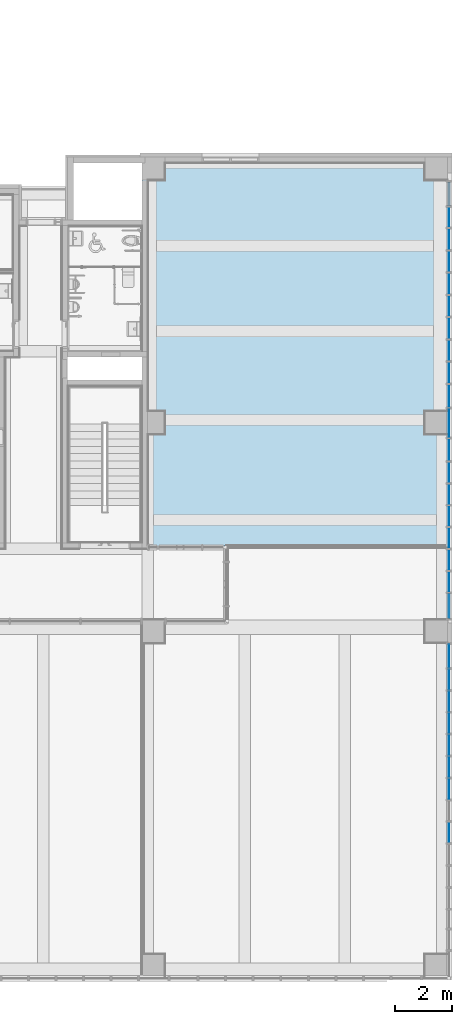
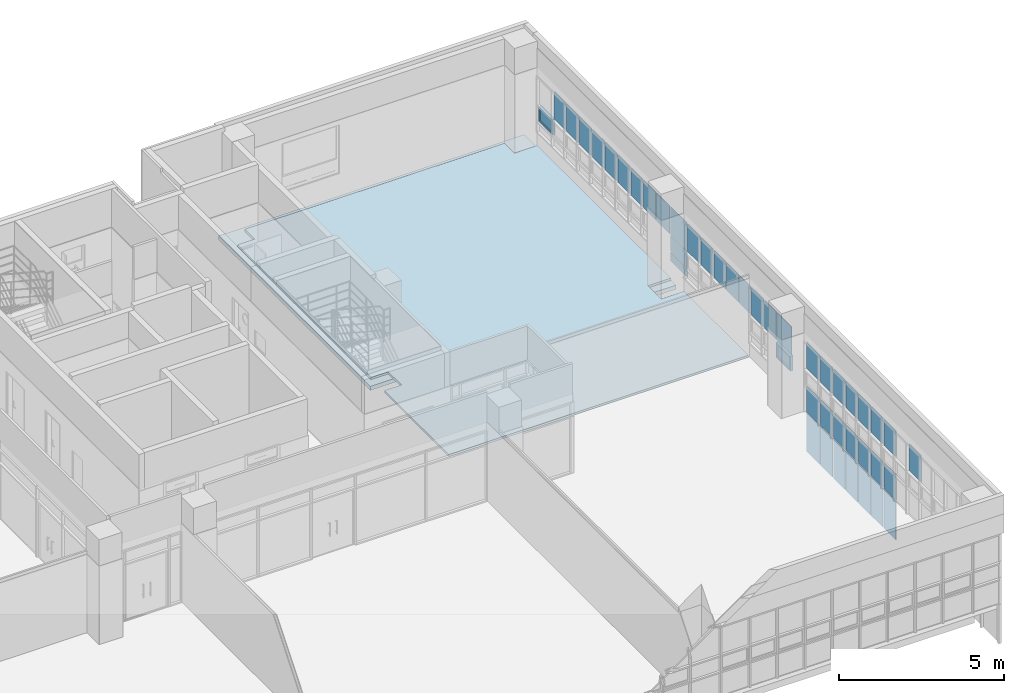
# One storey, part 32 of 81: 44 plates, 2 slabs, 2 elements without a shape of their own.
"""IFC2X3 building model written with IfcOpenShell, lengths in millimetres."""

from ifc_helpers import new_model, entity, si_unit, converted_unit, derived_unit, direction, frame, frame_2d, origin, origin_2d_with_axis, place, context, subcontext, project, spatial, polyline, rectangle, outline, extrude, source, transform, mapped, material, material_list, layer, layer_set, layer_usage, type_object, type_shapes, element, aggregate, save


model = new_model("IFC2X3")

# Units and contexts
model_context = context("Model", 3, precision=0.01, world=origin(), true_north=direction((6.123031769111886e-17, 1.0)))
body_context = subcontext(model_context, "Body", "Model", "MODEL_VIEW")
ifc_project = project(units=[si_unit("LENGTHUNIT", "METRE", prefix="MILLI"), si_unit("AREAUNIT", "SQUARE_METRE"), si_unit("VOLUMEUNIT", "CUBIC_METRE"), converted_unit("PLANEANGLEUNIT", "DEGREE", entity("IfcRatioMeasure", 0.017453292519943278), si_unit("PLANEANGLEUNIT", "RADIAN"), dimensions=[0, 0, 0, 0, 0, 0, 0]), si_unit("MASSUNIT", "GRAM", prefix="KILO"), derived_unit("MASSDENSITYUNIT", [(si_unit("MASSUNIT", "GRAM", prefix="KILO"), 1), (si_unit("LENGTHUNIT", "METRE"), -3)]), derived_unit("MOMENTOFINERTIAUNIT", [(si_unit("LENGTHUNIT", "METRE"), 4)]), si_unit("TIMEUNIT", "SECOND"), si_unit("FREQUENCYUNIT", "HERTZ"), si_unit("THERMODYNAMICTEMPERATUREUNIT", "DEGREE_CELSIUS"), derived_unit("THERMALTRANSMITTANCEUNIT", [(si_unit("MASSUNIT", "GRAM", prefix="KILO"), 1), (si_unit("THERMODYNAMICTEMPERATUREUNIT", "KELVIN"), -1), (si_unit("TIMEUNIT", "SECOND"), -3)]), derived_unit("VOLUMETRICFLOWRATEUNIT", [(si_unit("LENGTHUNIT", "METRE"), 3), (si_unit("TIMEUNIT", "SECOND"), -1)]), derived_unit("MASSFLOWRATEUNIT", [(si_unit("MASSUNIT", "GRAM", prefix="KILO"), 1), (si_unit("TIMEUNIT", "SECOND"), -1)]), derived_unit("ROTATIONALFREQUENCYUNIT", [(si_unit("TIMEUNIT", "SECOND"), -1)]), si_unit("ELECTRICCURRENTUNIT", "AMPERE"), si_unit("ELECTRICVOLTAGEUNIT", "VOLT"), si_unit("POWERUNIT", "WATT"), si_unit("FORCEUNIT", "NEWTON", prefix="KILO"), si_unit("ILLUMINANCEUNIT", "LUX"), si_unit("LUMINOUSFLUXUNIT", "LUMEN"), si_unit("LUMINOUSINTENSITYUNIT", "CANDELA"), derived_unit("USERDEFINED", [(si_unit("MASSUNIT", "GRAM", prefix="KILO"), -1), (si_unit("LENGTHUNIT", "METRE"), -2), (si_unit("TIMEUNIT", "SECOND"), 3), (si_unit("LUMINOUSFLUXUNIT", "LUMEN"), 1)]), derived_unit("SOUNDPOWERUNIT", [(si_unit("MASSUNIT", "GRAM", prefix="KILO"), 1), (si_unit("LENGTHUNIT", "METRE"), 2), (si_unit("TIMEUNIT", "SECOND"), -3)]), derived_unit("SOUNDPRESSUREUNIT", [(si_unit("MASSUNIT", "GRAM", prefix="KILO"), 1), (si_unit("LENGTHUNIT", "METRE"), -1), (si_unit("TIMEUNIT", "SECOND"), -2)]), derived_unit("LINEARVELOCITYUNIT", [(si_unit("LENGTHUNIT", "METRE"), 1), (si_unit("TIMEUNIT", "SECOND"), -1)]), si_unit("PRESSUREUNIT", "PASCAL"), derived_unit("USERDEFINED", [(si_unit("LENGTHUNIT", "METRE"), -2), (si_unit("MASSUNIT", "GRAM", prefix="KILO"), 1), (si_unit("TIMEUNIT", "SECOND"), -2)]), derived_unit("LINEARFORCEUNIT", [(si_unit("MASSUNIT", "GRAM", prefix="KILO"), 1), (si_unit("LENGTHUNIT", "METRE"), 1), (si_unit("TIMEUNIT", "SECOND"), -2), (si_unit("LENGTHUNIT", "METRE"), -1)]), derived_unit("PLANARFORCEUNIT", [(si_unit("MASSUNIT", "GRAM", prefix="KILO"), 1), (si_unit("LENGTHUNIT", "METRE"), 1), (si_unit("TIMEUNIT", "SECOND"), -2), (si_unit("LENGTHUNIT", "METRE"), -2)])], contexts=[model_context])

# Site, building, storey
site_placement = place(None, frame((-14167.972527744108, -657.2125860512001, 0.0)))
site = spatial("IfcSite", under=ifc_project, at=site_placement, Name="Default", CompositionType="ELEMENT")
building_placement = place(site_placement, origin())
building = spatial("IfcBuilding", under=site, at=building_placement, Name="Sample Building", CompositionType="ELEMENT")
storey_placement = place(building_placement, frame((0.0, 0.0, 13400.0)))
storey = spatial("IfcBuildingStorey", under=building, at=storey_placement, Name="지상 4층", CompositionType="ELEMENT", Elevation=13400.00000000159)

# Slab
ifc_material_1 = material(Name="KBIMS-콘크리트")
ifc_layer_1 = layer(ifc_material_1, 150.0)
ifc_layer_set_1 = layer_set([ifc_layer_1], Name="바닥:SL111-철근콘크리트구조 바닥 150mm_S1")
ifc_layer_usage_1 = layer_usage(ifc_layer_set_1, "AXIS3", "POSITIVE", 0.0)
slab_type_1 = type_object("IfcSlabType", Name="바닥:SL111-철근콘크리트구조 바닥 150mm_S1", PredefinedType="FLOOR", material=ifc_layer_set_1)
slab_1_placement = place(storey_placement, origin())
element("IfcSlab", 1, at=slab_1_placement, inside=storey, type_object=slab_type_1, material=ifc_layer_usage_1, Name="바닥:SL111-철근콘크리트구조 바닥 150mm_S1", ObjectType="바닥:SL111-철근콘크리트구조 바닥 150mm_S1", PredefinedType="FLOOR", context=body_context, shape_type="SweptSolid", body=[
    extrude(rectangle(XDim=9200.000037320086, YDim=10699.999920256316, at=frame_2d((4.547473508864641e-12, -8.640199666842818e-12), x_axis=(1.0, 0.0))), frame((46117.95506529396, 24657.21227648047, 0.0), z_axis=(0.0, 0.0, -1.0), x_axis=(0.0, 1.0, 0.0)), (0.0, 0.0, 1.0), 150.00000000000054),
])

# Curtain wall, plate
curtain_wall_type = type_object("IfcCurtainWallType", Name="커튼월:CW112-스테인리스 스틸 커튼월", PredefinedType="NOTDEFINED")
curtain_wall_1_placement = place(storey_placement, frame((0.0, 0.0, -13400.0)))
curtain_wall_1 = element("IfcCurtainWall", 2, at=curtain_wall_1_placement, inside=storey, type_object=curtain_wall_type, Name="커튼월:CW112-스테인리스 스틸 커튼월", ObjectType="커튼월:CW112-스테인리스 스틸 커튼월")
ifc_material_2 = material(Name="KBIMS-로이유리(코팅)")
plate_type_1 = type_object("IfcPlateType", Name="CW300-THK24.Low-e coating glass:CW300-THK24.Low-e coating glass", PredefinedType="CURTAIN_PANEL", material=ifc_material_2)
shared_shape_1 = source(origin(), body_context, "Body", "SweptSolid", [
    extrude(rectangle(XDim=24.000000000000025, YDim=1000.0000000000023, at=origin_2d_with_axis()), frame((0.0, 0.0, 0.0), z_axis=(0.0, 0.0, 1.0), x_axis=(0.0, 1.0, 0.0)), (0.0, 0.0, 1.0), 549.9999999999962),
])
type_shapes(plate_type_1, [shared_shape_1])
plate_1_placement = place(curtain_wall_1_placement, frame((51517.963828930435, 19956.71229514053, 14425.0), z_axis=(0.0, 0.0, 1.0), x_axis=(0.0, -1.0, 0.0)))
plate_1 = element("IfcPlate", 3, at=plate_1_placement, type_object=plate_type_1, material=ifc_material_2, Name="CW300-THK24.Low-e coating glass:CW300-THK24.Low-e coating glass", ObjectType="CW300-THK24.Low-e coating glass:CW300-THK24.Low-e coating glass", context=body_context, shape_type="MappedRepresentation", body=[
    mapped(shared_shape_1, transform((0.0, 0.0, 0.0), scale=1.0)),
])

# Curtain wall, plates
curtain_wall_2_placement = place(storey_placement, frame((0.0, 0.0, -13400.0)))
curtain_wall_2 = element("IfcCurtainWall", 4, at=curtain_wall_2_placement, inside=storey, type_object=curtain_wall_type, Name="커튼월:CW112-스테인리스 스틸 커튼월", ObjectType="커튼월:CW112-스테인리스 스틸 커튼월")
plate_type_2 = type_object("IfcPlateType", Name="CW300-THK24.Low-e coating glass:CW300-THK24.Low-e coating glass", PredefinedType="CURTAIN_PANEL", material=ifc_material_2)
shared_shape_2 = source(origin(), body_context, "Body", "SweptSolid", [
    extrude(rectangle(XDim=24.000000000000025, YDim=822.3945880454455, at=origin_2d_with_axis()), frame((0.0, 0.0, 0.0), z_axis=(0.0, 0.0, 1.0), x_axis=(0.0, 1.0, 0.0)), (0.0, 0.0, 1.0), 1424.9999999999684),
])
type_shapes(plate_type_2, [shared_shape_2])
plate_2_placement = place(curtain_wall_2_placement, frame((51517.96382893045, 11795.980330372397, 12000.0), z_axis=(0.0, 0.0, 1.0), x_axis=(0.0, -1.0, 0.0)))
plate_2 = element("IfcPlate", 5, at=plate_2_placement, type_object=plate_type_2, material=ifc_material_2, Name="CW300-THK24.Low-e coating glass:CW300-THK24.Low-e coating glass", ObjectType="CW300-THK24.Low-e coating glass:CW300-THK24.Low-e coating glass", context=body_context, shape_type="MappedRepresentation", body=[
    mapped(shared_shape_2, transform((0.0, 0.0, 0.0), scale=1.0)),
])
plate_type_3 = type_object("IfcPlateType", Name="CW300-THK24.Low-e coating glass:CW300-THK24.Low-e coating glass", PredefinedType="CURTAIN_PANEL", material=ifc_material_2)
shared_shape_3 = source(origin(), body_context, "Body", "SweptSolid", [
    extrude(rectangle(XDim=24.000000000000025, YDim=716.0000000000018, at=origin_2d_with_axis()), frame((0.0, 0.0, 0.0), z_axis=(0.0, 0.0, 1.0), x_axis=(0.0, 1.0, 0.0)), (0.0, 0.0, 1.0), 1424.9999999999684),
])
type_shapes(plate_type_3, [shared_shape_3])
plate_3_placement = place(curtain_wall_2_placement, frame((51517.96382893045, 10976.783036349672, 12000.0), z_axis=(0.0, 0.0, 1.0), x_axis=(0.0, -1.0, 0.0)))
plate_3 = element("IfcPlate", 6, at=plate_3_placement, type_object=plate_type_3, material=ifc_material_2, Name="CW300-THK24.Low-e coating glass:CW300-THK24.Low-e coating glass", ObjectType="CW300-THK24.Low-e coating glass:CW300-THK24.Low-e coating glass", context=body_context, shape_type="MappedRepresentation", body=[
    mapped(shared_shape_3, transform((0.0, 0.0, 0.0), scale=1.0)),
])
plate_4_placement = place(curtain_wall_2_placement, frame((51517.96382893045, 10210.783036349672, 12000.0), z_axis=(0.0, 0.0, 1.0), x_axis=(0.0, -1.0, 0.0)))
plate_4 = element("IfcPlate", 7, at=plate_4_placement, type_object=plate_type_3, material=ifc_material_2, Name="CW300-THK24.Low-e coating glass:CW300-THK24.Low-e coating glass", ObjectType="CW300-THK24.Low-e coating glass:CW300-THK24.Low-e coating glass", context=body_context, shape_type="MappedRepresentation", body=[
    mapped(shared_shape_3, transform((0.0, 0.0, 0.0), scale=1.0)),
])
plate_5_placement = place(curtain_wall_2_placement, frame((51517.96382893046, 9444.783036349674, 12000.0), z_axis=(0.0, 0.0, 1.0), x_axis=(0.0, -1.0, 0.0)))
plate_5 = element("IfcPlate", 8, at=plate_5_placement, type_object=plate_type_3, material=ifc_material_2, Name="CW300-THK24.Low-e coating glass:CW300-THK24.Low-e coating glass", ObjectType="CW300-THK24.Low-e coating glass:CW300-THK24.Low-e coating glass", context=body_context, shape_type="MappedRepresentation", body=[
    mapped(shared_shape_3, transform((0.0, 0.0, 0.0), scale=1.0)),
])
plate_6_placement = place(curtain_wall_2_placement, frame((51517.96382893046, 8678.783036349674, 12000.0), z_axis=(0.0, 0.0, 1.0), x_axis=(0.0, -1.0, 0.0)))
plate_6 = element("IfcPlate", 9, at=plate_6_placement, type_object=plate_type_3, material=ifc_material_2, Name="CW300-THK24.Low-e coating glass:CW300-THK24.Low-e coating glass", ObjectType="CW300-THK24.Low-e coating glass:CW300-THK24.Low-e coating glass", context=body_context, shape_type="MappedRepresentation", body=[
    mapped(shared_shape_3, transform((0.0, 0.0, 0.0), scale=1.0)),
])
plate_7_placement = place(curtain_wall_2_placement, frame((51517.96382893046, 7912.783036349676, 12000.0), z_axis=(0.0, 0.0, 1.0), x_axis=(0.0, -1.0, 0.0)))
plate_7 = element("IfcPlate", 10, at=plate_7_placement, type_object=plate_type_3, material=ifc_material_2, Name="CW300-THK24.Low-e coating glass:CW300-THK24.Low-e coating glass", ObjectType="CW300-THK24.Low-e coating glass:CW300-THK24.Low-e coating glass", context=body_context, shape_type="MappedRepresentation", body=[
    mapped(shared_shape_3, transform((0.0, 0.0, 0.0), scale=1.0)),
])
plate_8_placement = place(curtain_wall_2_placement, frame((51517.96382893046, 7146.783036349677, 12000.0), z_axis=(0.0, 0.0, 1.0), x_axis=(0.0, -1.0, 0.0)))
plate_8 = element("IfcPlate", 11, at=plate_8_placement, type_object=plate_type_3, material=ifc_material_2, Name="CW300-THK24.Low-e coating glass:CW300-THK24.Low-e coating glass", ObjectType="CW300-THK24.Low-e coating glass:CW300-THK24.Low-e coating glass", context=body_context, shape_type="MappedRepresentation", body=[
    mapped(shared_shape_3, transform((0.0, 0.0, 0.0), scale=1.0)),
])
plate_type_4 = type_object("IfcPlateType", Name="CW300-THK24.Low-e coating glass:CW300-THK24.Low-e coating glass", PredefinedType="CURTAIN_PANEL", material=ifc_material_2)
shared_shape_4 = source(origin(), body_context, "Body", "SweptSolid", [
    extrude(rectangle(XDim=24.000000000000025, YDim=822.3945880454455, at=origin_2d_with_axis()), frame((0.0, 0.0, 0.0), z_axis=(0.0, 0.0, 1.0), x_axis=(0.0, 1.0, 0.0)), (0.0, 0.0, 1.0), 949.9999999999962),
])
type_shapes(plate_type_4, [shared_shape_4])
plate_9_placement = place(curtain_wall_2_placement, frame((51517.96382893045, 11795.980330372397, 13475.0), z_axis=(0.0, 0.0, 1.0), x_axis=(0.0, -1.0, 0.0)))
plate_9 = element("IfcPlate", 12, at=plate_9_placement, type_object=plate_type_4, material=ifc_material_2, Name="CW300-THK24.Low-e coating glass:CW300-THK24.Low-e coating glass", ObjectType="CW300-THK24.Low-e coating glass:CW300-THK24.Low-e coating glass", context=body_context, shape_type="MappedRepresentation", body=[
    mapped(shared_shape_4, transform((0.0, 0.0, 0.0), scale=1.0)),
])
plate_type_5 = type_object("IfcPlateType", Name="CW300-THK24.Low-e coating glass:CW300-THK24.Low-e coating glass", PredefinedType="CURTAIN_PANEL", material=ifc_material_2)
shared_shape_5 = source(origin(), body_context, "Body", "SweptSolid", [
    extrude(rectangle(XDim=24.000000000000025, YDim=716.0000000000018, at=origin_2d_with_axis()), frame((0.0, 0.0, 0.0), z_axis=(0.0, 0.0, 1.0), x_axis=(0.0, 1.0, 0.0)), (0.0, 0.0, 1.0), 949.9999999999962),
])
type_shapes(plate_type_5, [shared_shape_5])
plate_10_placement = place(curtain_wall_2_placement, frame((51517.96382893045, 10976.783036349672, 13475.0), z_axis=(0.0, 0.0, 1.0), x_axis=(0.0, -1.0, 0.0)))
plate_10 = element("IfcPlate", 13, at=plate_10_placement, type_object=plate_type_5, material=ifc_material_2, Name="CW300-THK24.Low-e coating glass:CW300-THK24.Low-e coating glass", ObjectType="CW300-THK24.Low-e coating glass:CW300-THK24.Low-e coating glass", context=body_context, shape_type="MappedRepresentation", body=[
    mapped(shared_shape_5, transform((0.0, 0.0, 0.0), scale=1.0)),
])
plate_11_placement = place(curtain_wall_2_placement, frame((51517.96382893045, 10210.783036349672, 13475.0), z_axis=(0.0, 0.0, 1.0), x_axis=(0.0, -1.0, 0.0)))
plate_11 = element("IfcPlate", 14, at=plate_11_placement, type_object=plate_type_5, material=ifc_material_2, Name="CW300-THK24.Low-e coating glass:CW300-THK24.Low-e coating glass", ObjectType="CW300-THK24.Low-e coating glass:CW300-THK24.Low-e coating glass", context=body_context, shape_type="MappedRepresentation", body=[
    mapped(shared_shape_5, transform((0.0, 0.0, 0.0), scale=1.0)),
])
plate_12_placement = place(curtain_wall_2_placement, frame((51517.96382893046, 9444.783036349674, 13475.0), z_axis=(0.0, 0.0, 1.0), x_axis=(0.0, -1.0, 0.0)))
plate_12 = element("IfcPlate", 15, at=plate_12_placement, type_object=plate_type_5, material=ifc_material_2, Name="CW300-THK24.Low-e coating glass:CW300-THK24.Low-e coating glass", ObjectType="CW300-THK24.Low-e coating glass:CW300-THK24.Low-e coating glass", context=body_context, shape_type="MappedRepresentation", body=[
    mapped(shared_shape_5, transform((0.0, 0.0, 0.0), scale=1.0)),
])
plate_13_placement = place(curtain_wall_2_placement, frame((51517.96382893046, 8678.783036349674, 13475.0), z_axis=(0.0, 0.0, 1.0), x_axis=(0.0, -1.0, 0.0)))
plate_13 = element("IfcPlate", 16, at=plate_13_placement, type_object=plate_type_5, material=ifc_material_2, Name="CW300-THK24.Low-e coating glass:CW300-THK24.Low-e coating glass", ObjectType="CW300-THK24.Low-e coating glass:CW300-THK24.Low-e coating glass", context=body_context, shape_type="MappedRepresentation", body=[
    mapped(shared_shape_5, transform((0.0, 0.0, 0.0), scale=1.0)),
])
plate_14_placement = place(curtain_wall_2_placement, frame((51517.96382893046, 7912.783036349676, 13475.0), z_axis=(0.0, 0.0, 1.0), x_axis=(0.0, -1.0, 0.0)))
plate_14 = element("IfcPlate", 17, at=plate_14_placement, type_object=plate_type_5, material=ifc_material_2, Name="CW300-THK24.Low-e coating glass:CW300-THK24.Low-e coating glass", ObjectType="CW300-THK24.Low-e coating glass:CW300-THK24.Low-e coating glass", context=body_context, shape_type="MappedRepresentation", body=[
    mapped(shared_shape_5, transform((0.0, 0.0, 0.0), scale=1.0)),
])
plate_15_placement = place(curtain_wall_2_placement, frame((51517.96382893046, 7146.783036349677, 13475.0), z_axis=(0.0, 0.0, 1.0), x_axis=(0.0, -1.0, 0.0)))
plate_15 = element("IfcPlate", 18, at=plate_15_placement, type_object=plate_type_5, material=ifc_material_2, Name="CW300-THK24.Low-e coating glass:CW300-THK24.Low-e coating glass", ObjectType="CW300-THK24.Low-e coating glass:CW300-THK24.Low-e coating glass", context=body_context, shape_type="MappedRepresentation", body=[
    mapped(shared_shape_5, transform((0.0, 0.0, 0.0), scale=1.0)),
])
plate_type_6 = type_object("IfcPlateType", Name="CW300-THK24.Low-e coating glass:CW300-THK24.Low-e coating glass", PredefinedType="CURTAIN_PANEL", material=ifc_material_2)
shared_shape_6 = source(origin(), body_context, "Body", "SweptSolid", [
    extrude(rectangle(XDim=24.000000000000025, YDim=822.3945880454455, at=origin_2d_with_axis()), frame((0.0, 0.0, 0.0), z_axis=(0.0, 0.0, 1.0), x_axis=(0.0, 1.0, 0.0)), (0.0, 0.0, 1.0), 975.0000000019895),
])
type_shapes(plate_type_6, [shared_shape_6])
plate_16_placement = place(curtain_wall_2_placement, frame((51517.96382893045, 11795.980330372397, 15075.0), z_axis=(0.0, 0.0, 1.0), x_axis=(0.0, -1.0, 0.0)))
plate_16 = element("IfcPlate", 19, at=plate_16_placement, type_object=plate_type_6, material=ifc_material_2, Name="CW300-THK24.Low-e coating glass:CW300-THK24.Low-e coating glass", ObjectType="CW300-THK24.Low-e coating glass:CW300-THK24.Low-e coating glass", context=body_context, shape_type="MappedRepresentation", body=[
    mapped(shared_shape_6, transform((0.0, 0.0, 0.0), scale=1.0)),
])
plate_type_7 = type_object("IfcPlateType", Name="CW300-THK24.Low-e coating glass:CW300-THK24.Low-e coating glass", PredefinedType="CURTAIN_PANEL", material=ifc_material_2)
shared_shape_7 = source(origin(), body_context, "Body", "SweptSolid", [
    extrude(rectangle(XDim=24.000000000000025, YDim=716.0000000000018, at=origin_2d_with_axis()), frame((0.0, 0.0, 0.0), z_axis=(0.0, 0.0, 1.0), x_axis=(0.0, 1.0, 0.0)), (0.0, 0.0, 1.0), 975.0000000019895),
])
type_shapes(plate_type_7, [shared_shape_7])
plate_17_placement = place(curtain_wall_2_placement, frame((51517.96382893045, 10976.783036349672, 15075.0), z_axis=(0.0, 0.0, 1.0), x_axis=(0.0, -1.0, 0.0)))
plate_17 = element("IfcPlate", 20, at=plate_17_placement, type_object=plate_type_7, material=ifc_material_2, Name="CW300-THK24.Low-e coating glass:CW300-THK24.Low-e coating glass", ObjectType="CW300-THK24.Low-e coating glass:CW300-THK24.Low-e coating glass", context=body_context, shape_type="MappedRepresentation", body=[
    mapped(shared_shape_7, transform((0.0, 0.0, 0.0), scale=1.0)),
])
plate_18_placement = place(curtain_wall_2_placement, frame((51517.96382893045, 10210.783036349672, 15075.0), z_axis=(0.0, 0.0, 1.0), x_axis=(0.0, -1.0, 0.0)))
plate_18 = element("IfcPlate", 21, at=plate_18_placement, type_object=plate_type_7, material=ifc_material_2, Name="CW300-THK24.Low-e coating glass:CW300-THK24.Low-e coating glass", ObjectType="CW300-THK24.Low-e coating glass:CW300-THK24.Low-e coating glass", context=body_context, shape_type="MappedRepresentation", body=[
    mapped(shared_shape_7, transform((0.0, 0.0, 0.0), scale=1.0)),
])
plate_19_placement = place(curtain_wall_2_placement, frame((51517.96382893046, 9444.783036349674, 15075.0), z_axis=(0.0, 0.0, 1.0), x_axis=(0.0, -1.0, 0.0)))
plate_19 = element("IfcPlate", 22, at=plate_19_placement, type_object=plate_type_7, material=ifc_material_2, Name="CW300-THK24.Low-e coating glass:CW300-THK24.Low-e coating glass", ObjectType="CW300-THK24.Low-e coating glass:CW300-THK24.Low-e coating glass", context=body_context, shape_type="MappedRepresentation", body=[
    mapped(shared_shape_7, transform((0.0, 0.0, 0.0), scale=1.0)),
])
plate_20_placement = place(curtain_wall_2_placement, frame((51517.96382893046, 8678.783036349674, 15075.0), z_axis=(0.0, 0.0, 1.0), x_axis=(0.0, -1.0, 0.0)))
plate_20 = element("IfcPlate", 23, at=plate_20_placement, type_object=plate_type_7, material=ifc_material_2, Name="CW300-THK24.Low-e coating glass:CW300-THK24.Low-e coating glass", ObjectType="CW300-THK24.Low-e coating glass:CW300-THK24.Low-e coating glass", context=body_context, shape_type="MappedRepresentation", body=[
    mapped(shared_shape_7, transform((0.0, 0.0, 0.0), scale=1.0)),
])
plate_21_placement = place(curtain_wall_2_placement, frame((51517.96382893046, 7912.783036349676, 15075.0), z_axis=(0.0, 0.0, 1.0), x_axis=(0.0, -1.0, 0.0)))
plate_21 = element("IfcPlate", 24, at=plate_21_placement, type_object=plate_type_7, material=ifc_material_2, Name="CW300-THK24.Low-e coating glass:CW300-THK24.Low-e coating glass", ObjectType="CW300-THK24.Low-e coating glass:CW300-THK24.Low-e coating glass", context=body_context, shape_type="MappedRepresentation", body=[
    mapped(shared_shape_7, transform((0.0, 0.0, 0.0), scale=1.0)),
])
plate_22_placement = place(curtain_wall_2_placement, frame((51517.96382893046, 7146.783036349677, 15075.0), z_axis=(0.0, 0.0, 1.0), x_axis=(0.0, -1.0, 0.0)))
plate_22 = element("IfcPlate", 25, at=plate_22_placement, type_object=plate_type_7, material=ifc_material_2, Name="CW300-THK24.Low-e coating glass:CW300-THK24.Low-e coating glass", ObjectType="CW300-THK24.Low-e coating glass:CW300-THK24.Low-e coating glass", context=body_context, shape_type="MappedRepresentation", body=[
    mapped(shared_shape_7, transform((0.0, 0.0, 0.0), scale=1.0)),
])
plate_23_placement = place(curtain_wall_2_placement, frame((51517.96382893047, 5614.783036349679, 15075.0), z_axis=(0.0, 0.0, 1.0), x_axis=(0.0, -1.0, 0.0)))
plate_23 = element("IfcPlate", 26, at=plate_23_placement, type_object=plate_type_7, material=ifc_material_2, Name="CW300-THK24.Low-e coating glass:CW300-THK24.Low-e coating glass", ObjectType="CW300-THK24.Low-e coating glass:CW300-THK24.Low-e coating glass", context=body_context, shape_type="MappedRepresentation", body=[
    mapped(shared_shape_7, transform((0.0, 0.0, 0.0), scale=1.0)),
])
aggregate(curtain_wall_2, [plate_2, plate_3, plate_4, plate_5, plate_6, plate_7, plate_8, plate_9, plate_10, plate_11, plate_12, plate_13, plate_14, plate_15, plate_16, plate_17, plate_18, plate_19, plate_20, plate_21, plate_22, plate_23])

# Plate
plate_type_8 = type_object("IfcPlateType", Name="CW300-THK24.Low-e coating glass:CW300-THK24.Low-e coating glass", PredefinedType="CURTAIN_PANEL", material=ifc_material_2)
shared_shape_8 = source(origin(), body_context, "Body", "SweptSolid", [
    extrude(rectangle(XDim=24.000000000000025, YDim=1000.0000000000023, at=origin_2d_with_axis()), frame((0.0, 0.0, 0.0), z_axis=(0.0, 0.0, 1.0), x_axis=(0.0, 1.0, 0.0)), (0.0, 0.0, 1.0), 324.9999999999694),
])
type_shapes(plate_type_8, [shared_shape_8])
plate_24_placement = place(curtain_wall_1_placement, frame((51517.963828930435, 19956.71229514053, 14050.0), z_axis=(0.0, 0.0, 1.0), x_axis=(0.0, -1.0, 0.0)))
plate_24 = element("IfcPlate", 27, at=plate_24_placement, type_object=plate_type_8, material=ifc_material_2, Name="CW300-THK24.Low-e coating glass:CW300-THK24.Low-e coating glass", ObjectType="CW300-THK24.Low-e coating glass:CW300-THK24.Low-e coating glass", context=body_context, shape_type="MappedRepresentation", body=[
    mapped(shared_shape_8, transform((0.0, 0.0, 0.0), scale=1.0)),
])

ifc_material_3 = material(Name="KBIMS-유리")
ifc_material_4 = material(Name="KBIMS-알루미늄")
ifc_material_list_1 = material_list([ifc_material_3, ifc_material_4])
ifc_material_list_2 = material_list([ifc_material_3, ifc_material_4])
plate_type_9 = type_object("IfcPlateType", Name="CW410-프로젝트 창:CW410-프로젝트 창 (하부개폐)", PredefinedType="CURTAIN_PANEL", material=ifc_material_list_2)
shared_shape_9 = source(origin(), body_context, "Body", "SweptSolid", [
    extrude(rectangle(XDim=23.999999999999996, YDim=740.5004098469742, at=origin_2d_with_axis()), frame((0.0, 0.04999999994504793, 50.0), z_axis=(0.0, 0.0, 1.0), x_axis=(0.0, 1.0, 0.0)), (0.0, 0.0, 1.0), 450.0000000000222),
    extrude(outline(polyline([(-420.2502049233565, -275.0), (420.2502049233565, -275.0), (420.2502049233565, 275.0), (-420.2502049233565, 275.0), (-420.2502049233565, -275.0)]), holes=[polyline([(-370.2502049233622, -225.0), (-370.25020492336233, 225.0), (370.2502049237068, 225.0), (370.2502049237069, -225.0), (-370.2502049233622, -225.0)])]), frame((0.0, -49.95000000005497, 275.0), z_axis=(0.0, 1.0, 0.0), x_axis=(1.0, 0.0, 0.0)), (0.0, 0.0, 1.0), 99.99999999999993),
])
type_shapes(plate_type_9, [shared_shape_9])
plate_25_placement = place(curtain_wall_1_placement, frame((51517.96382893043, 27968.962500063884, 14425.0), z_axis=(0.0, 0.0, 1.0), x_axis=(0.0, -1.0, 0.0)))
plate_25 = element("IfcPlate", 28, at=plate_25_placement, type_object=plate_type_9, material=ifc_material_list_1, Name="CW410-프로젝트 창:CW410-프로젝트 창 (하부개폐)", ObjectType="CW410-프로젝트 창:CW410-프로젝트 창 (하부개폐)", context=body_context, shape_type="MappedRepresentation", body=[
    mapped(shared_shape_9, transform((0.0, 0.0, 0.0), scale=1.0)),
])

ifc_material_list_3 = material_list([ifc_material_3, ifc_material_4])
ifc_material_list_4 = material_list([ifc_material_3, ifc_material_4])
plate_type_10 = type_object("IfcPlateType", Name="CW410-프로젝트 창:CW410-프로젝트 창 (하부개폐)", PredefinedType="CURTAIN_PANEL", material=ifc_material_list_4)
shared_shape_10 = source(origin(), body_context, "Body", "SweptSolid", [
    extrude(rectangle(XDim=23.999999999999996, YDim=777.4999120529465, at=origin_2d_with_axis()), frame((0.0, 0.04999999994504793, 50.0), z_axis=(0.0, 0.0, 1.0), x_axis=(0.0, 1.0, 0.0)), (0.0, 0.0, 1.0), 450.0000000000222),
    extrude(outline(polyline([(-438.7499560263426, -275.0), (438.7499560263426, -275.0), (438.7499560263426, 275.0), (-438.7499560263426, 275.0), (-438.7499560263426, -275.0)]), holes=[polyline([(-388.74995602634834, -225.0), (-388.74995602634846, 225.0), (388.7499560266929, 225.0), (388.74995602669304, -225.0), (-388.74995602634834, -225.0)])]), frame((0.0, -49.95000000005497, 275.0), z_axis=(0.0, 1.0, 0.0), x_axis=(1.0, 0.0, 0.0)), (0.0, 0.0, 1.0), 99.99999999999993),
])
type_shapes(plate_type_10, [shared_shape_10])
plate_26_placement = place(curtain_wall_1_placement, frame((51517.96382893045, 13545.962339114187, 14425.0), z_axis=(0.0, 0.0, 1.0), x_axis=(0.0, -1.0, 0.0)))
plate_26 = element("IfcPlate", 29, at=plate_26_placement, type_object=plate_type_10, material=ifc_material_list_3, Name="CW410-프로젝트 창:CW410-프로젝트 창 (하부개폐)", ObjectType="CW410-프로젝트 창:CW410-프로젝트 창 (하부개폐)", context=body_context, shape_type="MappedRepresentation", body=[
    mapped(shared_shape_10, transform((0.0, 0.0, 0.0), scale=1.0)),
])

plate_type_11 = type_object("IfcPlateType", Name="CW300-THK24.Low-e coating glass:CW300-THK24.Low-e coating glass", PredefinedType="CURTAIN_PANEL", material=ifc_material_2)
shared_shape_11 = source(origin(), body_context, "Body", "SweptSolid", [
    extrude(rectangle(XDim=24.000000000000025, YDim=700.0000000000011, at=origin_2d_with_axis()), frame((0.0, 0.0, 0.0), z_axis=(0.0, 0.0, 1.0), x_axis=(0.0, 1.0, 0.0)), (0.0, 0.0, 1.0), 1025.000000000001),
])
type_shapes(plate_type_11, [shared_shape_11])
plate_27_placement = place(curtain_wall_1_placement, frame((51517.96382893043, 27148.71229514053, 15025.0), z_axis=(0.0, 0.0, 1.0), x_axis=(0.0, -1.0, 0.0)))
plate_27 = element("IfcPlate", 30, at=plate_27_placement, type_object=plate_type_11, material=ifc_material_2, Name="CW300-THK24.Low-e coating glass:CW300-THK24.Low-e coating glass", ObjectType="CW300-THK24.Low-e coating glass:CW300-THK24.Low-e coating glass", context=body_context, shape_type="MappedRepresentation", body=[
    mapped(shared_shape_11, transform((0.0, 0.0, 0.0), scale=1.0)),
])

plate_type_12 = type_object("IfcPlateType", Name="CW300-THK24.Low-e coating glass:CW300-THK24.Low-e coating glass", PredefinedType="CURTAIN_PANEL", material=ifc_material_2)
shared_shape_12 = source(origin(), body_context, "Body", "SweptSolid", [
    extrude(rectangle(XDim=24.000000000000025, YDim=729.0000000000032, at=origin_2d_with_axis()), frame((0.0, 0.0, 0.0), z_axis=(0.0, 0.0, 1.0), x_axis=(0.0, 1.0, 0.0)), (0.0, 0.0, 1.0), 1025.000000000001),
])
type_shapes(plate_type_12, [shared_shape_12])
plate_28_placement = place(curtain_wall_1_placement, frame((51517.96382893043, 26384.21229514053, 15025.0), z_axis=(0.0, 0.0, 1.0), x_axis=(0.0, -1.0, 0.0)))
plate_28 = element("IfcPlate", 31, at=plate_28_placement, type_object=plate_type_12, material=ifc_material_2, Name="CW300-THK24.Low-e coating glass:CW300-THK24.Low-e coating glass", ObjectType="CW300-THK24.Low-e coating glass:CW300-THK24.Low-e coating glass", context=body_context, shape_type="MappedRepresentation", body=[
    mapped(shared_shape_12, transform((0.0, 0.0, 0.0), scale=1.0)),
])

plate_29_placement = place(curtain_wall_1_placement, frame((51517.96382893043, 25605.212295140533, 15025.0), z_axis=(0.0, 0.0, 1.0), x_axis=(0.0, -1.0, 0.0)))
plate_29 = element("IfcPlate", 32, at=plate_29_placement, type_object=plate_type_12, material=ifc_material_2, Name="CW300-THK24.Low-e coating glass:CW300-THK24.Low-e coating glass", ObjectType="CW300-THK24.Low-e coating glass:CW300-THK24.Low-e coating glass", context=body_context, shape_type="MappedRepresentation", body=[
    mapped(shared_shape_12, transform((0.0, 0.0, 0.0), scale=1.0)),
])

plate_30_placement = place(curtain_wall_1_placement, frame((51517.96382893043, 24826.212295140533, 15025.0), z_axis=(0.0, 0.0, 1.0), x_axis=(0.0, -1.0, 0.0)))
plate_30 = element("IfcPlate", 33, at=plate_30_placement, type_object=plate_type_12, material=ifc_material_2, Name="CW300-THK24.Low-e coating glass:CW300-THK24.Low-e coating glass", ObjectType="CW300-THK24.Low-e coating glass:CW300-THK24.Low-e coating glass", context=body_context, shape_type="MappedRepresentation", body=[
    mapped(shared_shape_12, transform((0.0, 0.0, 0.0), scale=1.0)),
])

plate_31_placement = place(curtain_wall_1_placement, frame((51517.96382893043, 24047.21229514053, 15025.0), z_axis=(0.0, 0.0, 1.0), x_axis=(0.0, -1.0, 0.0)))
plate_31 = element("IfcPlate", 34, at=plate_31_placement, type_object=plate_type_12, material=ifc_material_2, Name="CW300-THK24.Low-e coating glass:CW300-THK24.Low-e coating glass", ObjectType="CW300-THK24.Low-e coating glass:CW300-THK24.Low-e coating glass", context=body_context, shape_type="MappedRepresentation", body=[
    mapped(shared_shape_12, transform((0.0, 0.0, 0.0), scale=1.0)),
])

plate_32_placement = place(curtain_wall_1_placement, frame((51517.963828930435, 23268.21229514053, 15025.0), z_axis=(0.0, 0.0, 1.0), x_axis=(0.0, -1.0, 0.0)))
plate_32 = element("IfcPlate", 35, at=plate_32_placement, type_object=plate_type_12, material=ifc_material_2, Name="CW300-THK24.Low-e coating glass:CW300-THK24.Low-e coating glass", ObjectType="CW300-THK24.Low-e coating glass:CW300-THK24.Low-e coating glass", context=body_context, shape_type="MappedRepresentation", body=[
    mapped(shared_shape_12, transform((0.0, 0.0, 0.0), scale=1.0)),
])

plate_33_placement = place(curtain_wall_1_placement, frame((51517.963828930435, 22489.212295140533, 15025.0), z_axis=(0.0, 0.0, 1.0), x_axis=(0.0, -1.0, 0.0)))
plate_33 = element("IfcPlate", 36, at=plate_33_placement, type_object=plate_type_12, material=ifc_material_2, Name="CW300-THK24.Low-e coating glass:CW300-THK24.Low-e coating glass", ObjectType="CW300-THK24.Low-e coating glass:CW300-THK24.Low-e coating glass", context=body_context, shape_type="MappedRepresentation", body=[
    mapped(shared_shape_12, transform((0.0, 0.0, 0.0), scale=1.0)),
])

plate_34_placement = place(curtain_wall_1_placement, frame((51517.963828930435, 21710.212295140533, 15025.0), z_axis=(0.0, 0.0, 1.0), x_axis=(0.0, -1.0, 0.0)))
plate_34 = element("IfcPlate", 37, at=plate_34_placement, type_object=plate_type_12, material=ifc_material_2, Name="CW300-THK24.Low-e coating glass:CW300-THK24.Low-e coating glass", ObjectType="CW300-THK24.Low-e coating glass:CW300-THK24.Low-e coating glass", context=body_context, shape_type="MappedRepresentation", body=[
    mapped(shared_shape_12, transform((0.0, 0.0, 0.0), scale=1.0)),
])

plate_type_13 = type_object("IfcPlateType", Name="CW300-THK24.Low-e coating glass:CW300-THK24.Low-e coating glass", PredefinedType="CURTAIN_PANEL", material=ifc_material_2)
shared_shape_13 = source(origin(), body_context, "Body", "SweptSolid", [
    extrude(rectangle(XDim=24.000000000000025, YDim=789.0000000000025, at=origin_2d_with_axis()), frame((0.0, 0.0, 0.0), z_axis=(0.0, 0.0, 1.0), x_axis=(0.0, 1.0, 0.0)), (0.0, 0.0, 1.0), 1025.000000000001),
])
type_shapes(plate_type_13, [shared_shape_13])
plate_35_placement = place(curtain_wall_1_placement, frame((51517.963828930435, 20901.21229514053, 15025.0), z_axis=(0.0, 0.0, 1.0), x_axis=(0.0, -1.0, 0.0)))
plate_35 = element("IfcPlate", 38, at=plate_35_placement, type_object=plate_type_13, material=ifc_material_2, Name="CW300-THK24.Low-e coating glass:CW300-THK24.Low-e coating glass", ObjectType="CW300-THK24.Low-e coating glass:CW300-THK24.Low-e coating glass", context=body_context, shape_type="MappedRepresentation", body=[
    mapped(shared_shape_13, transform((0.0, 0.0, 0.0), scale=1.0)),
])

plate_type_14 = type_object("IfcPlateType", Name="CW300-THK24.Low-e coating glass:CW300-THK24.Low-e coating glass", PredefinedType="CURTAIN_PANEL", material=ifc_material_2)
shared_shape_14 = source(origin(), body_context, "Body", "SweptSolid", [
    extrude(rectangle(XDim=24.000000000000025, YDim=1000.0000000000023, at=origin_2d_with_axis()), frame((0.0, 0.0, 0.0), z_axis=(0.0, 0.0, 1.0), x_axis=(0.0, 1.0, 0.0)), (0.0, 0.0, 1.0), 1025.000000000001),
])
type_shapes(plate_type_14, [shared_shape_14])
plate_36_placement = place(curtain_wall_1_placement, frame((51517.963828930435, 19956.71229514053, 15025.0), z_axis=(0.0, 0.0, 1.0), x_axis=(0.0, -1.0, 0.0)))
plate_36 = element("IfcPlate", 39, at=plate_36_placement, type_object=plate_type_14, material=ifc_material_2, Name="CW300-THK24.Low-e coating glass:CW300-THK24.Low-e coating glass", ObjectType="CW300-THK24.Low-e coating glass:CW300-THK24.Low-e coating glass", context=body_context, shape_type="MappedRepresentation", body=[
    mapped(shared_shape_14, transform((0.0, 0.0, 0.0), scale=1.0)),
])

plate_type_15 = type_object("IfcPlateType", Name="CW300-THK24.Low-e coating glass:CW300-THK24.Low-e coating glass", PredefinedType="CURTAIN_PANEL", material=ifc_material_2)
shared_shape_15 = source(origin(), body_context, "Body", "SweptSolid", [
    extrude(rectangle(XDim=24.000000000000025, YDim=775.999999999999, at=origin_2d_with_axis()), frame((0.0, 0.0, 0.0), z_axis=(0.0, 0.0, 1.0), x_axis=(0.0, 1.0, 0.0)), (0.0, 0.0, 1.0), 1025.000000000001),
])
type_shapes(plate_type_15, [shared_shape_15])
plate_37_placement = place(curtain_wall_1_placement, frame((51517.963828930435, 19018.712295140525, 15025.0), z_axis=(0.0, 0.0, 1.0), x_axis=(0.0, -1.0, 0.0)))
plate_37 = element("IfcPlate", 40, at=plate_37_placement, type_object=plate_type_15, material=ifc_material_2, Name="CW300-THK24.Low-e coating glass:CW300-THK24.Low-e coating glass", ObjectType="CW300-THK24.Low-e coating glass:CW300-THK24.Low-e coating glass", context=body_context, shape_type="MappedRepresentation", body=[
    mapped(shared_shape_15, transform((0.0, 0.0, 0.0), scale=1.0)),
])

plate_type_16 = type_object("IfcPlateType", Name="CW300-THK24.Low-e coating glass:CW300-THK24.Low-e coating glass", PredefinedType="CURTAIN_PANEL", material=ifc_material_2)
shared_shape_16 = source(origin(), body_context, "Body", "SweptSolid", [
    extrude(rectangle(XDim=24.000000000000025, YDim=715.9999999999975, at=origin_2d_with_axis()), frame((0.0, 0.0, 0.0), z_axis=(0.0, 0.0, 1.0), x_axis=(0.0, 1.0, 0.0)), (0.0, 0.0, 1.0), 1025.000000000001),
])
type_shapes(plate_type_16, [shared_shape_16])
plate_38_placement = place(curtain_wall_1_placement, frame((51517.96382893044, 18222.71229514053, 15025.0), z_axis=(0.0, 0.0, 1.0), x_axis=(0.0, -1.0, 0.0)))
plate_38 = element("IfcPlate", 41, at=plate_38_placement, type_object=plate_type_16, material=ifc_material_2, Name="CW300-THK24.Low-e coating glass:CW300-THK24.Low-e coating glass", ObjectType="CW300-THK24.Low-e coating glass:CW300-THK24.Low-e coating glass", context=body_context, shape_type="MappedRepresentation", body=[
    mapped(shared_shape_16, transform((0.0, 0.0, 0.0), scale=1.0)),
])

plate_39_placement = place(curtain_wall_1_placement, frame((51517.96382893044, 17456.71229514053, 15025.0), z_axis=(0.0, 0.0, 1.0), x_axis=(0.0, -1.0, 0.0)))
plate_39 = element("IfcPlate", 42, at=plate_39_placement, type_object=plate_type_16, material=ifc_material_2, Name="CW300-THK24.Low-e coating glass:CW300-THK24.Low-e coating glass", ObjectType="CW300-THK24.Low-e coating glass:CW300-THK24.Low-e coating glass", context=body_context, shape_type="MappedRepresentation", body=[
    mapped(shared_shape_16, transform((0.0, 0.0, 0.0), scale=1.0)),
])

plate_40_placement = place(curtain_wall_1_placement, frame((51517.96382893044, 16690.71229514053, 15025.0), z_axis=(0.0, 0.0, 1.0), x_axis=(0.0, -1.0, 0.0)))
plate_40 = element("IfcPlate", 43, at=plate_40_placement, type_object=plate_type_16, material=ifc_material_2, Name="CW300-THK24.Low-e coating glass:CW300-THK24.Low-e coating glass", ObjectType="CW300-THK24.Low-e coating glass:CW300-THK24.Low-e coating glass", context=body_context, shape_type="MappedRepresentation", body=[
    mapped(shared_shape_16, transform((0.0, 0.0, 0.0), scale=1.0)),
])

plate_41_placement = place(curtain_wall_1_placement, frame((51517.96382893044, 15924.71229514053, 15025.0), z_axis=(0.0, 0.0, 1.0), x_axis=(0.0, -1.0, 0.0)))
plate_41 = element("IfcPlate", 44, at=plate_41_placement, type_object=plate_type_16, material=ifc_material_2, Name="CW300-THK24.Low-e coating glass:CW300-THK24.Low-e coating glass", ObjectType="CW300-THK24.Low-e coating glass:CW300-THK24.Low-e coating glass", context=body_context, shape_type="MappedRepresentation", body=[
    mapped(shared_shape_16, transform((0.0, 0.0, 0.0), scale=1.0)),
])

plate_42_placement = place(curtain_wall_1_placement, frame((51517.96382893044, 15158.71229514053, 15025.0), z_axis=(0.0, 0.0, 1.0), x_axis=(0.0, -1.0, 0.0)))
plate_42 = element("IfcPlate", 45, at=plate_42_placement, type_object=plate_type_16, material=ifc_material_2, Name="CW300-THK24.Low-e coating glass:CW300-THK24.Low-e coating glass", ObjectType="CW300-THK24.Low-e coating glass:CW300-THK24.Low-e coating glass", context=body_context, shape_type="MappedRepresentation", body=[
    mapped(shared_shape_16, transform((0.0, 0.0, 0.0), scale=1.0)),
])

plate_43_placement = place(curtain_wall_1_placement, frame((51517.96382893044, 14392.712295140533, 15025.0), z_axis=(0.0, 0.0, 1.0), x_axis=(0.0, -1.0, 0.0)))
plate_43 = element("IfcPlate", 46, at=plate_43_placement, type_object=plate_type_16, material=ifc_material_2, Name="CW300-THK24.Low-e coating glass:CW300-THK24.Low-e coating glass", ObjectType="CW300-THK24.Low-e coating glass:CW300-THK24.Low-e coating glass", context=body_context, shape_type="MappedRepresentation", body=[
    mapped(shared_shape_16, transform((0.0, 0.0, 0.0), scale=1.0)),
])

plate_type_17 = type_object("IfcPlateType", Name="CW300-THK24.Low-e coating glass:CW300-THK24.Low-e coating glass", PredefinedType="CURTAIN_PANEL", material=ifc_material_2)
shared_shape_17 = source(origin(), body_context, "Body", "SweptSolid", [
    extrude(rectangle(XDim=24.000000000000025, YDim=877.4999120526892, at=origin_2d_with_axis()), frame((0.0, 0.0, 0.0), z_axis=(0.0, 0.0, 1.0), x_axis=(0.0, 1.0, 0.0)), (0.0, 0.0, 1.0), 1025.000000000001),
])
type_shapes(plate_type_17, [shared_shape_17])
plate_44_placement = place(curtain_wall_1_placement, frame((51517.96382893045, 13545.962339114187, 15025.0), z_axis=(0.0, 0.0, 1.0), x_axis=(0.0, -1.0, 0.0)))
plate_44 = element("IfcPlate", 47, at=plate_44_placement, type_object=plate_type_17, material=ifc_material_2, Name="CW300-THK24.Low-e coating glass:CW300-THK24.Low-e coating glass", ObjectType="CW300-THK24.Low-e coating glass:CW300-THK24.Low-e coating glass", context=body_context, shape_type="MappedRepresentation", body=[
    mapped(shared_shape_17, transform((0.0, 0.0, 0.0), scale=1.0)),
])

aggregate(curtain_wall_1, [plate_24, plate_25, plate_1, plate_26, plate_27, plate_28, plate_29, plate_30, plate_31, plate_32, plate_33, plate_34, plate_35, plate_36, plate_37, plate_38, plate_39, plate_40, plate_41, plate_42, plate_43, plate_44])

# Slab
ifc_material_5 = material(Name="SL341-테라조 바닥 (바탕48mm, 마감32mm)")
ifc_layer_2 = layer(ifc_material_5, 80.0)
ifc_layer_set_2 = layer_set([ifc_layer_2], Name="바닥:A1-14-06B-테라조타일 (80mm)")
ifc_layer_usage_2 = layer_usage(ifc_layer_set_2, "AXIS3", "POSITIVE", 0.0)
slab_type_2 = type_object("IfcSlabType", Name="바닥:A1-14-06B-테라조타일 (80mm)", PredefinedType="FLOOR", material=ifc_layer_set_2)
slab_2_placement = place(storey_placement, origin())
element("IfcSlab", 48, at=slab_2_placement, inside=storey, type_object=slab_type_2, material=ifc_layer_usage_2, Name="바닥:A1-14-06B-테라조타일 (80mm)", ObjectType="바닥:A1-14-06B-테라조타일 (80mm)", PredefinedType="FLOOR", context=body_context, shape_type="SweptSolid", body=[
    extrude(outline(polyline([(-2323.7500441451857, -5200.005432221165), (5776.249955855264, -5200.005432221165), (5776.249955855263, -4599.996739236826), (6376.249943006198, -4599.996739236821), (6376.249943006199, 4500.011984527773), (5776.250043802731, 4500.011984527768), (5776.250043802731, 5299.985795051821), (-2323.7500441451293, 5299.985795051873), (-2323.7500441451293, 4500.01198452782), (-3123.75004414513, 4500.011984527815), (-3123.750044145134, 5299.994598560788), (-7033.749766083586, 5299.9945985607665), (-7033.749766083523, -5200.005432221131), (-3123.7500441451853, -5200.005432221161), (-3123.750044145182, -4599.996758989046), (-2323.7500441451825, -4599.99675898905), (-2323.7500441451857, -5200.005432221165)])), frame((46167.969230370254, 22680.96235213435, 80.0), z_axis=(0.0, 0.0, -1.0), x_axis=(0.0, 1.0, 0.0)), (0.0, 0.0, 1.0), 79.99999999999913),
])

save(model, "model.ifc")
